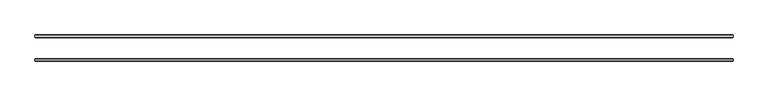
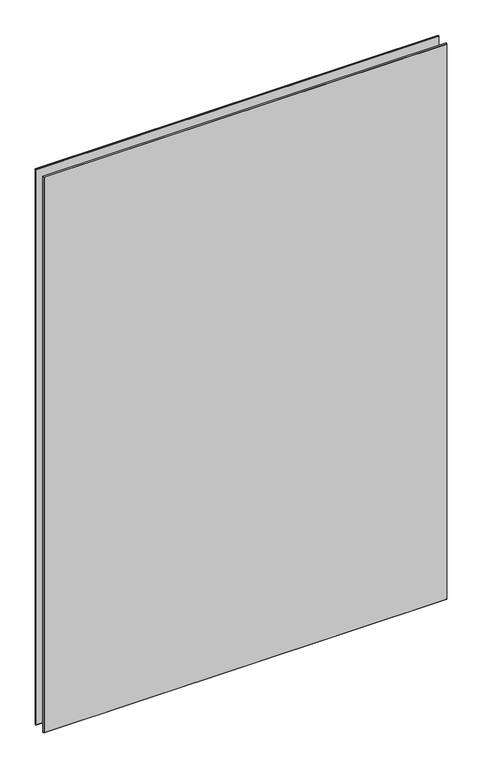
"""IFC4 building model written with IfcOpenShell, lengths in millimetres: plate geometry, 3-AMG-2-Панель двойной витраж 8, 10 : Смещение 32 Толщина 8mm."""

from ifc_helpers import new_model, si_unit, origin, place, context, project, spatial, faceted_brep, source, transform, mapped, element, save


def plate_c9742521(model_context):
    return source(origin(), model_context, "Body", "Brep", [
        faceted_brep([(943.3330578, -34.4961653, 2751.0), (943.3330578, -29.5038347, 2751.0), (-948.3330578, -29.5038347, 2751.0), (-948.3330578, -34.4961653, 2751.0), (943.3330578, -29.5038347, -7.0), (943.3330578, -34.4961653, -7.0), (-948.3330578, -34.4961653, -7.0), (-948.3330578, -29.5038347, -7.0), (-946.8292231, -28.0, 2749.4961653), (941.8292231, -28.0, 2749.4961653), (941.8292231, -28.0, -5.5039422), (-946.8292231, -28.0, -5.5039422), (941.8292231, -36.0, 2749.4961653), (-946.8292231, -36.0, 2749.4961653), (-946.8292231, -36.0, -5.4961653), (941.8292231, -36.0, -5.4961653)], [[[0, 1, 2, 3]], [[4, 5, 6, 7]], [[8, 9, 10, 11]], [[3, 2, 7, 6]], [[12, 13, 14, 15]], [[1, 0, 5, 4]], [[1, 4, 10, 9]], [[5, 0, 12, 15]], [[0, 3, 13, 12]], [[2, 1, 9, 8]], [[7, 2, 8, 11]], [[3, 6, 14, 13]], [[6, 5, 15, 14]], [[4, 7, 11, 10]]]),
        faceted_brep([(943.3330578, 29.5038347, 2751.0), (943.3330578, 34.4961653, 2751.0), (-948.3330578, 34.4961653, 2751.0), (-948.3330578, 29.5038347, 2751.0), (943.3330578, 34.4961653, -7.0), (943.3330578, 29.5038347, -7.0), (-948.3330578, 29.5038347, -7.0), (-948.3330578, 34.4961653, -7.0), (-946.8292231, 36.0, 2749.4961653), (941.8292231, 36.0, 2749.4961653), (941.8292231, 36.0, -5.5039422), (-946.8292231, 36.0, -5.5039422), (941.8292231, 28.0, 2749.4961653), (-946.8292231, 28.0, 2749.4961653), (-946.8292231, 28.0, -5.4961653), (941.8292231, 28.0, -5.4961653)], [[[0, 1, 2, 3]], [[4, 5, 6, 7]], [[8, 9, 10, 11]], [[3, 2, 7, 6]], [[12, 13, 14, 15]], [[1, 0, 5, 4]], [[1, 4, 10, 9]], [[5, 0, 12, 15]], [[7, 2, 8, 11]], [[3, 6, 14, 13]], [[0, 3, 13, 12]], [[2, 1, 9, 8]], [[6, 5, 15, 14]], [[4, 7, 11, 10]]]),
    ])


if __name__ == "__main__":
    model = new_model("IFC4")
    model_context = context("Model", 3, world=origin())
    ifc_project = project(units=[si_unit("LENGTHUNIT", "METRE", prefix="MILLI")], contexts=[model_context])
    site = spatial("IfcSite", under=ifc_project)
    building = spatial("IfcBuilding", under=site)
    placement = place(None, origin())
    plate_shape = plate_c9742521(model_context)
    element("IfcPlate", 1, ObjectType="3-AMG-2-Панель двойной витраж 8, 10 : Смещение 32 Толщина 8mm", at=placement, inside=building, context=model_context, shape_type="MappedRepresentation", body=[
        mapped(plate_shape, transform((0.0, 0.0, 0.0), x_axis=(1.0, 0.0, 0.0), y_axis=(0.0, 1.0, 0.0), z_axis=(0.0, 0.0, 1.0))),
    ])
    save(model, "model.ifc")
